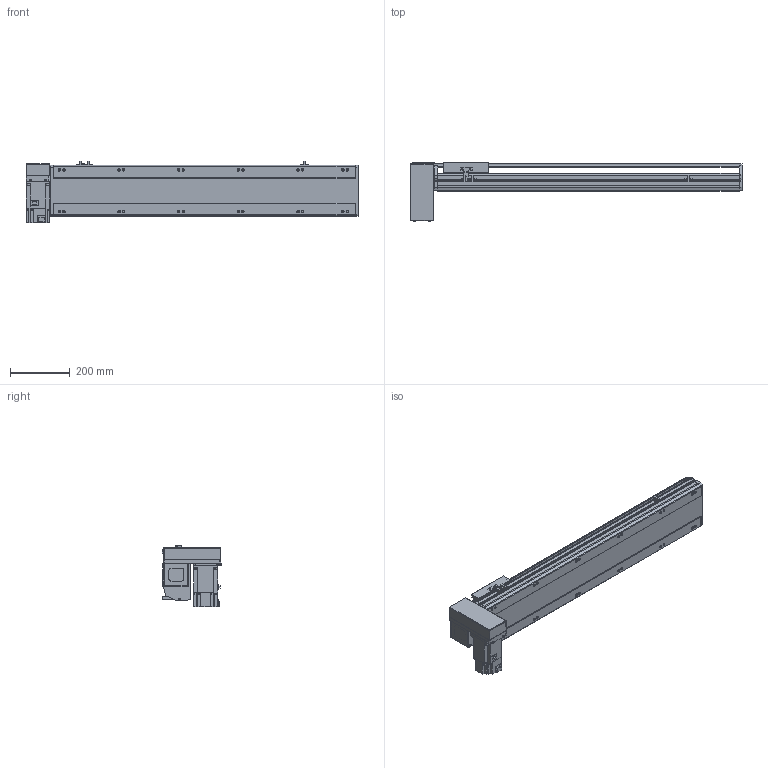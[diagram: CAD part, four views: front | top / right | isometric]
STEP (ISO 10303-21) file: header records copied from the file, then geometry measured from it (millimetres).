
FILE_DESCRIPTION(/* description */ ('STEP AP214'),/* implementation_level */ '2;1');
FILE_NAME(/* name */ 'PBS170-P40-S750-RD-T75-C1-N(0)',/* time_stamp */ '2022-06-08T07:34:46+02:00',/* author */ ('License CC BY-ND 4.0'),/* organization */ ('CADENAS'),/* preprocessor_version */ 'ST-DEVELOPER v18.102',/* originating_system */ 'PARTsolutions',/* authorisation */ ' ');
FILE_SCHEMA (('AUTOMOTIVE_DESIGN {1 0 10303 214 3 1 1}'));
Length unit declared in the file: millimetre
Products named in the file (7): PBS170-P40-S750-RD-T75-C1-N(0); PBS170_sensor; PBS170_plant; PBS170_sliser; T75-p1; PBS170T-RD_motors; PBS170-S750()_body
Assembly tree (8 placements, depth 2):
  PBS170-P40-S750-RD-T75-C1-N(0)
    PBS170_sensor  x3
    PBS170_plant
    PBS170_sliser
    T75-p1
    PBS170T-RD_motors
    PBS170-S750()_body
Bounding box: 1113 x 201 x 205.3 mm (x, y, z)
Volume: 9209679.2 mm3; surface area: 1225027.9 mm2
Topology: 8 solids, 8 shells, 1050 faces, 2795 edges, 1822 vertices
Faces by surface type: plane 675, cylinder 323, cone 42, sphere 8, torus 2
Full cylindrical faces by diameter (mm): 3.242 x4, 4 x2, 4.4 x4, 4.5 x6, 4.917 x4, 6 x9, 6.647 x20, 7 x2, 7.5 x4, 8 x8, 8.5 x12, 10 x4, 10.5 x12, 11 x2, 30 x2, 40 x1, 70 x1
Entity records: 30202 total; most frequent: CARTESIAN_POINT 5489, DIRECTION 5160, ORIENTED_EDGE 4908, EDGE_CURVE 2454, AXIS2_PLACEMENT_3D 1777, VERTEX_POINT 1682, LINE 1606, VECTOR 1606
